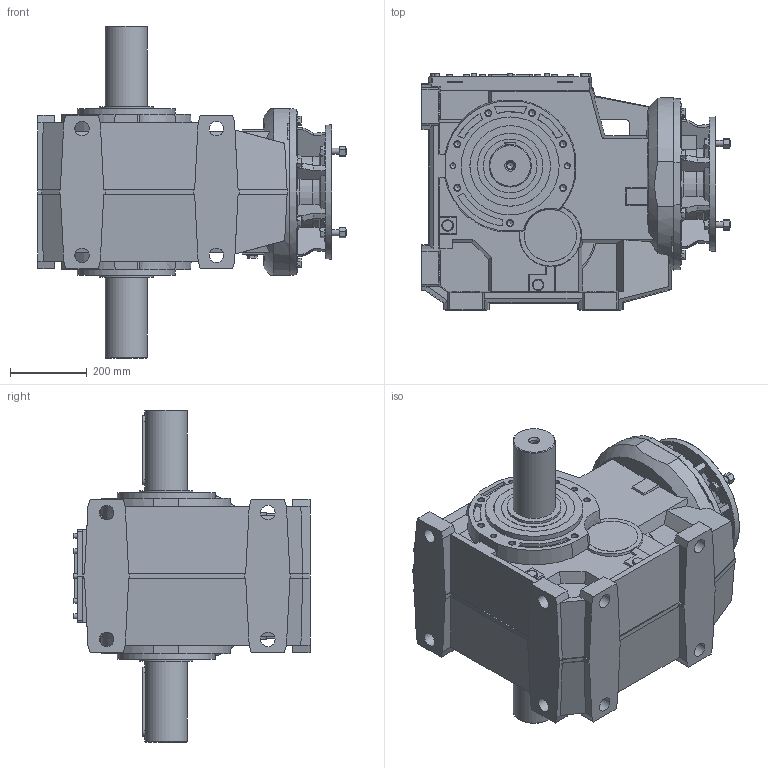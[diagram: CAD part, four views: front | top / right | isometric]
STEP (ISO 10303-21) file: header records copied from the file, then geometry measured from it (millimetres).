
FILE_DESCRIPTION(/* description */ ('STEP AP203'),/* implementation_level */ '2;1');
FILE_NAME(/* name */ 'B163UP160_B5110x2100000000NO----_---------------',/* time_stamp */ '2025-12-18T07:36:35+01:00',/* author */ ('License CC BY-ND 4.0'),/* organization */ ('CADENAS'),/* preprocessor_version */ 'ST-DEVELOPER v20',/* originating_system */ 'PARTsolutions',/* authorisation */ ' ');
FILE_SCHEMA (('CONFIG_CONTROL_DESIGN'));
Length unit declared in the file: millimetre
Products named in the file (5): B163UP160 B5110x2100000000NO----(---------------); 163-U-140; P-110x210; 163-B-350x42(160 B51); B163-350x42
Assembly tree (4 placements, depth 2):
  B163UP160 B5110x2100000000NO----(---------------)
    163-U-140
    P-110x210
    163-B-350x42(160 B51)
    B163-350x42
Bounding box: 804 x 615 x 865 mm (x, y, z)
Volume: 132571313.2 mm3; surface area: 3288965.7 mm2
Topology: 4 solids, 4 shells, 942 faces, 2423 edges, 1589 vertices
Faces by surface type: plane 649, cone 146, cylinder 146, torus 1
Full cylindrical faces by diameter (mm): 9.338 x3, 13 x16, 14 x4, 15.294 x14, 16 x8, 17.294 x2, 21 x2, 26 x3, 28 x2, 30 x5, 38 x8, 62 x1, 65 x1, 110 x2, 135.7 x2, 140 x2, 170 x2, 209.76 x2, 250 x1, 255 x2, 350 x1
Entity records: 27963 total; most frequent: CARTESIAN_POINT 5582, ORIENTED_EDGE 4504, DIRECTION 4432, EDGE_CURVE 2252, VERTEX_POINT 1574, AXIS2_PLACEMENT_3D 1486, LINE 1460, VECTOR 1460
